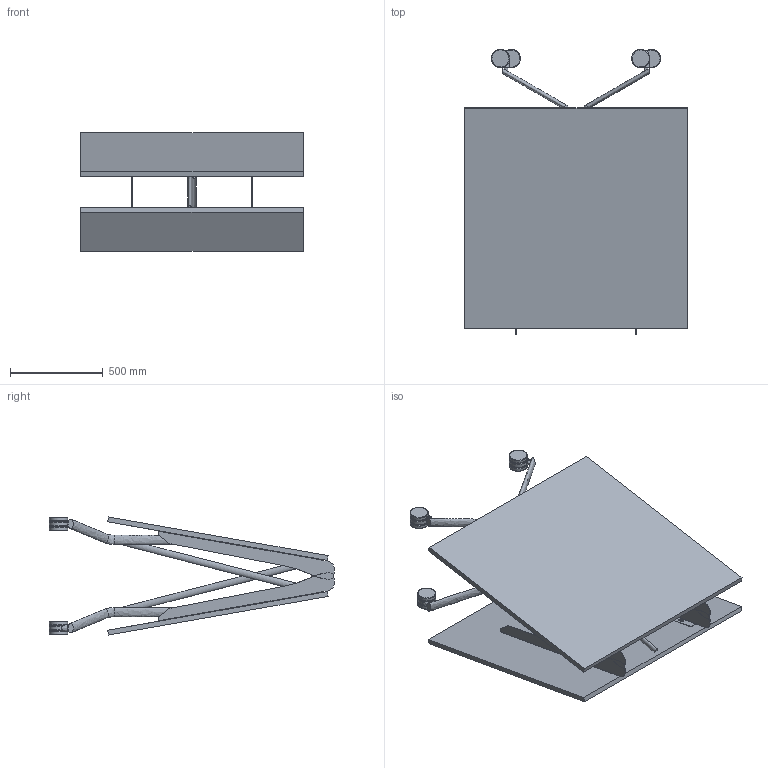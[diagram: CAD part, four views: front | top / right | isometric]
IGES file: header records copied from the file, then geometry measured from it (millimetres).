
Global section: file name: Mesa libro 2400x1200 (plegada); native system: Autodesk Inventor 2021; preprocessor: unknown; author: auxdiseno; date: 20230209.142333; units: millimetre
Bounding box: 1200 x 1535.38 x 635.78 mm (x, y, z)
Volume: 83306961.3 mm3; surface area: 7694805.7 mm2
Topology: 58 solids, 58 shells, 818 faces, 2146 edges, 1480 vertices
Faces by surface type: bspline 818
